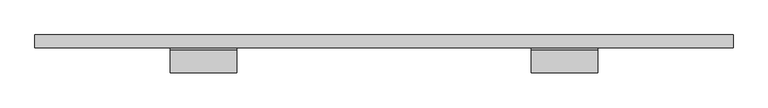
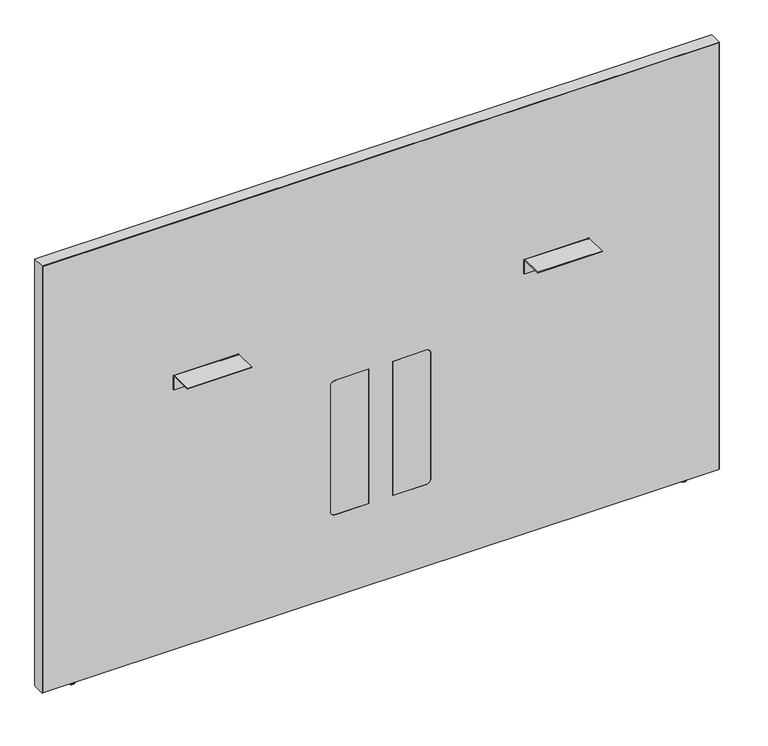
"""IFC4 building model written with IfcOpenShell, lengths in millimetres: furniture geometry, Steelcase - Answer Solution - Boundary Screen - Straight - Spanning : 42H x 63W."""

from ifc_helpers import new_model, si_unit, point, frame, frame_2d, origin, place, context, project, spatial, polyline, circle_curve, ellipse_curve, trimmed, segment, composite_curve, outline, extrude, source, transform, mapped, element, save
from ifc_brep_helpers import plane_surface, cylinder_surface, revolved_surface, advanced_brep


def furniture_72c8d723(model_context):
    return source(origin(), model_context, "Body", "SolidModel", [
        advanced_brep(
        [(-493.0902705, -14.8449166, 9.9059849), (-493.0902705, -5.9309607, 9.9059849), (-493.0902705, -23.7588726, 9.9059849), (-493.0902705, -5.9309607, 2.9673238), (-493.0902705, -23.7588726, 2.9673238), (-493.0902705, -6.8982978, 2.9673238), (-493.0902705, -22.7915354, 2.9673238), (-493.0902705, -6.8982978, 1.6569081), (-493.0902705, -22.7915354, 1.6569081), (-493.0902705, -8.5552059, 0.0), (-493.0902705, -21.1346274, 0.0), (-493.0902705, -14.8449166, 0.0)],
        [
            (0, 1),
            (1, 2, circle_curve(frame((-493.0902705, -14.8449166, 9.9059849), z_axis=(0.0, 0.0, 1.0), x_axis=(0.0, 1.0, 0.0)), 8.913956)),
            (2, 0),
            (2, 1, circle_curve(frame((-493.0902705, -14.8449166, 9.9059849), z_axis=(0.0, 0.0, 1.0), x_axis=(0.0, 1.0, 0.0)), 8.913956)),
            (1, 3),
            (3, 4, circle_curve(frame((-493.0902705, -14.8449166, 2.9673238), z_axis=(0.0, 0.0, 1.0), x_axis=(0.0, 1.0, 0.0)), 8.913956)),
            (4, 2),
            (4, 3, circle_curve(frame((-493.0902705, -14.8449166, 2.9673238), z_axis=(0.0, 0.0, 1.0), x_axis=(0.0, 1.0, 0.0)), 8.913956)),
            (3, 5),
            (5, 6, circle_curve(frame((-493.0902705, -14.8449166, 2.9673238), z_axis=(0.0, 0.0, 1.0), x_axis=(0.0, 1.0, 0.0)), 7.9466188)),
            (6, 4),
            (6, 5, circle_curve(frame((-493.0902705, -14.8449166, 2.9673238), z_axis=(0.0, 0.0, 1.0), x_axis=(0.0, 1.0, 0.0)), 7.9466188)),
            (5, 7),
            (7, 8, circle_curve(frame((-493.0902705, -14.8449166, 1.6569081), z_axis=(0.0, 0.0, 1.0), x_axis=(0.0, 1.0, 0.0)), 7.9466188)),
            (8, 6),
            (8, 7, circle_curve(frame((-493.0902705, -14.8449166, 1.6569081), z_axis=(0.0, 0.0, 1.0), x_axis=(0.0, 1.0, 0.0)), 7.9466188)),
            (7, 9, circle_curve(frame((-493.0902705, -8.5552059, 1.6569081), z_axis=(-1.0, 0.0, 0.0), x_axis=(0.0, 1.0, 0.0)), 1.6569081)),
            (9, 10, circle_curve(frame((-493.0902705, -14.8449166, 0.0), z_axis=(0.0, 0.0, 1.0), x_axis=(0.0, 1.0, 0.0)), 6.2897107)),
            (10, 8, circle_curve(frame((-493.0902705, -21.1346274, 1.6569081), z_axis=(-1.0, 0.0, 0.0), x_axis=(0.0, -1.0, 0.0)), 1.6569081)),
            (10, 9, circle_curve(frame((-493.0902705, -14.8449166, 0.0), z_axis=(0.0, 0.0, 1.0), x_axis=(0.0, 1.0, 0.0)), 6.2897107)),
            (9, 11),
            (11, 10),
        ],
        [
            plane_surface(frame((-493.0902705, -14.8449166, 9.9059849), z_axis=(0.0, 0.0, 1.0), x_axis=(0.0, 1.0, 0.0))),
            cylinder_surface(frame((-493.0902705, -14.8449166, 9.9059849), z_axis=(0.0, 0.0, 1.0), x_axis=(0.0, 1.0, 0.0)), 8.913956),
            plane_surface(frame((-493.0902705, -14.8449166, 2.9673238), z_axis=(0.0, 0.0, -1.0), x_axis=(0.0, 1.0, 0.0))),
            cylinder_surface(frame((-493.0902705, -14.8449166, 9.9059849), z_axis=(0.0, 0.0, 1.0), x_axis=(0.0, 1.0, 0.0)), 7.9466188),
            revolved_surface(trimmed(ellipse_curve(frame((-493.0902705, -8.5552059, 1.6569081), z_axis=(1.0, 0.0, 0.0), x_axis=(0.0, 1.0, 0.0)), 1.6569081, 1.6569081), [point((-493.0902705, -8.5552059, 0.0))], [point((-493.0902705, -6.8982978, 1.6569081))], True, "CARTESIAN"), (-493.0902705, -14.8449166, 9.9059849), (0.0, 0.0, 1.0)),
            plane_surface(frame((-493.0902705, -14.8449166, 0.0), z_axis=(0.0, 0.0, -1.0), x_axis=(0.0, 1.0, 0.0))),
        ],
        [
            (0, [[1, 2, 3]]),
            (0, [[-3, 4, -1]]),
            (1, [[-2, 5, 6, 7]]),
            (1, [[-4, -7, 8, -5]]),
            (2, [[-6, 9, 10, 11]]),
            (2, [[-8, -11, 12, -9]]),
            (3, [[-10, 13, 14, 15]]),
            (3, [[-12, -15, 16, -13]]),
            (4, [[-14, 17, 18, 19]]),
            (4, [[-16, -19, 20, -17]]),
            (5, [[-18, 21, 22]]),
            (5, [[-20, -22, -21]]),
        ],
    ),
        extrude(outline(composite_curve([segment(polyline([(-86.8398151, 696.4680019), (-86.8398151, 698.5), (-34.9450855, 698.5)]), True, "CONTINUOUS"), segment(trimmed(circle_curve(frame_2d((-34.9450855, 693.2447477)), 5.2552523), [point((-34.9450855, 698.5))], [point((-29.6898332, 693.2447477))], False, "CARTESIAN"), True, "CONTINUOUS"), segment(polyline([(-29.6898332, 693.2447477), (-29.6898332, 660.4), (-31.7218162, 660.4), (-31.7218162, 693.0058743)]), True, "CONTINUOUS"), segment(trimmed(circle_curve(frame_2d((-35.1839438, 693.0058743)), 3.4621276), [point((-31.7218162, 693.0058743))], [point((-35.1839438, 696.4680019))], True, "CARTESIAN"), True, "CONTINUOUS"), segment(polyline([(-35.1839438, 696.4680019), (-86.8398151, 696.4680019)]), True, "CONTINUOUS")], self_intersect=False)), frame((567.8282189, 0.0, 0.0), z_axis=(1.0, 0.0, 0.0), x_axis=(0.0, 1.0, 0.0)), (0.0, 0.0, 1.0), 152.4000969),
        extrude(outline(composite_curve([segment(polyline([(-86.8398151, 696.4680019), (-86.8398151, 698.5), (-34.9450855, 698.5)]), True, "CONTINUOUS"), segment(trimmed(circle_curve(frame_2d((-34.9450855, 693.2447477)), 5.2552523), [point((-34.9450855, 698.5))], [point((-29.6898332, 693.2447477))], False, "CARTESIAN"), True, "CONTINUOUS"), segment(polyline([(-29.6898332, 693.2447477), (-29.6898332, 660.4), (-31.7218162, 660.4), (-31.7218162, 693.0058743)]), True, "CONTINUOUS"), segment(trimmed(circle_curve(frame_2d((-35.1839438, 693.0058743)), 3.4621276), [point((-31.7218162, 693.0058743))], [point((-35.1839438, 696.4680019))], True, "CARTESIAN"), True, "CONTINUOUS"), segment(polyline([(-35.1839438, 696.4680019), (-86.8398151, 696.4680019)]), True, "CONTINUOUS")], self_intersect=False)), frame((-260.5884581, 0.0, 0.0), z_axis=(1.0, 0.0, 0.0), x_axis=(0.0, 1.0, 0.0)), (0.0, 0.0, 1.0), 152.4000969),
        advanced_brep(
        [(952.7286488, -23.7588726, 9.9059849), (952.7286488, -5.9309607, 9.9059849), (952.7286488, -14.8449166, 9.9059849), (952.7286488, -23.7588726, 2.9673238), (952.7286488, -5.9309607, 2.9673238), (952.7286488, -22.7915354, 2.9673238), (952.7286488, -6.8982978, 2.9673238), (952.7286488, -22.7915354, 1.6569081), (952.7286488, -6.8982978, 1.6569081), (952.7286488, -21.1346274, 0.0), (952.7286488, -8.5552059, 0.0), (952.7286488, -14.8449166, 0.0)],
        [
            (0, 1, circle_curve(frame((952.7286488, -14.8449166, 9.9059849), z_axis=(0.0, 0.0, 1.0), x_axis=(0.0, 1.0, 0.0)), 8.913956)),
            (1, 2),
            (2, 0),
            (1, 0, circle_curve(frame((952.7286488, -14.8449166, 9.9059849), z_axis=(0.0, 0.0, 1.0), x_axis=(0.0, 1.0, 0.0)), 8.913956)),
            (3, 4, circle_curve(frame((952.7286488, -14.8449166, 2.9673238), z_axis=(0.0, 0.0, 1.0), x_axis=(0.0, 1.0, 0.0)), 8.913956)),
            (4, 1),
            (0, 3),
            (4, 3, circle_curve(frame((952.7286488, -14.8449166, 2.9673238), z_axis=(0.0, 0.0, 1.0), x_axis=(0.0, 1.0, 0.0)), 8.913956)),
            (5, 6, circle_curve(frame((952.7286488, -14.8449166, 2.9673238), z_axis=(0.0, 0.0, 1.0), x_axis=(0.0, 1.0, 0.0)), 7.9466188)),
            (6, 4),
            (3, 5),
            (6, 5, circle_curve(frame((952.7286488, -14.8449166, 2.9673238), z_axis=(0.0, 0.0, 1.0), x_axis=(0.0, 1.0, 0.0)), 7.9466188)),
            (7, 8, circle_curve(frame((952.7286488, -14.8449166, 1.6569081), z_axis=(0.0, 0.0, 1.0), x_axis=(0.0, 1.0, 0.0)), 7.9466188)),
            (8, 6),
            (5, 7),
            (8, 7, circle_curve(frame((952.7286488, -14.8449166, 1.6569081), z_axis=(0.0, 0.0, 1.0), x_axis=(0.0, 1.0, 0.0)), 7.9466188)),
            (9, 10, circle_curve(frame((952.7286488, -14.8449166, 0.0), z_axis=(0.0, 0.0, 1.0), x_axis=(0.0, 1.0, 0.0)), 6.2897107)),
            (10, 8, circle_curve(frame((952.7286488, -8.5552059, 1.6569081), z_axis=(1.0, 0.0, 0.0), x_axis=(0.0, 1.0, 0.0)), 1.6569081)),
            (7, 9, circle_curve(frame((952.7286488, -21.1346274, 1.6569081), z_axis=(1.0, 0.0, 0.0), x_axis=(0.0, -1.0, 0.0)), 1.6569081)),
            (10, 9, circle_curve(frame((952.7286488, -14.8449166, 0.0), z_axis=(0.0, 0.0, 1.0), x_axis=(0.0, 1.0, 0.0)), 6.2897107)),
            (11, 10),
            (9, 11),
        ],
        [
            plane_surface(frame((952.7286488, -14.8449166, 9.9059849), z_axis=(0.0, 0.0, 1.0), x_axis=(0.0, 1.0, 0.0))),
            cylinder_surface(frame((952.7286488, -14.8449166, 9.9059849), z_axis=(0.0, 0.0, -1.0), x_axis=(0.0, 1.0, 0.0)), 8.913956),
            plane_surface(frame((952.7286488, -14.8449166, 2.9673238), z_axis=(0.0, 0.0, -1.0), x_axis=(0.0, 1.0, 0.0))),
            cylinder_surface(frame((952.7286488, -14.8449166, 9.9059849), z_axis=(0.0, 0.0, -1.0), x_axis=(0.0, 1.0, 0.0)), 7.9466188),
            revolved_surface(trimmed(ellipse_curve(frame((952.7286488, -8.5552059, 1.6569081), z_axis=(-1.0, 0.0, 0.0), x_axis=(0.0, 1.0, 0.0)), 1.6569081, 1.6569081), [point((952.7286488, -6.8982978, 1.6569081))], [point((952.7286488, -8.5552059, 0.0))], True, "CARTESIAN"), (952.7286488, -14.8449166, 9.9059849), (0.0, 0.0, -1.0)),
            plane_surface(frame((952.7286488, -14.8449166, 0.0), z_axis=(0.0, 0.0, -1.0), x_axis=(0.0, 1.0, 0.0))),
        ],
        [
            (0, [[1, 2, 3]]),
            (0, [[4, -3, -2]]),
            (1, [[5, 6, -1, 7]]),
            (1, [[8, -7, -4, -6]]),
            (2, [[9, 10, -5, 11]]),
            (2, [[12, -11, -8, -10]]),
            (3, [[13, 14, -9, 15]]),
            (3, [[16, -15, -12, -14]]),
            (4, [[17, 18, -13, 19]]),
            (4, [[20, -19, -16, -18]]),
            (5, [[21, -17, 22]]),
            (5, [[-22, -20, -21]]),
        ],
    ),
        advanced_brep(
        [(1028.8780168, 0.0, 1076.742118), (1028.8780168, 0.0, 9.9059849), (-569.2902221, 0.0, 9.9059849), (-569.2902221, 0.0, 1076.742118), (1028.8780168, -29.6898332, 1076.742118), (-569.2902221, -29.6898332, 1076.742118), (-569.2902221, -29.6898332, 9.9059849), (1028.8780168, -29.6898332, 9.9059849), (337.7883813, -29.6898332, 549.6162029), (347.9483813, -29.6898332, 539.4562029), (347.9483813, -29.6898332, 223.9362137), (337.7883813, -29.6898332, 213.7762137), (258.1344836, -29.6898332, 213.7762137), (258.1344836, -29.6898332, 549.6162029), (121.849997, -29.6898332, 549.6162029), (201.5038947, -29.6898332, 549.6162029), (201.5038947, -29.6898332, 213.7762137), (121.849997, -29.6898332, 213.7762137), (111.689997, -29.6898332, 223.9362137), (111.689997, -29.6898332, 539.4562029), (258.1344836, -29.0550397, 549.6162029), (337.7883813, -29.0550397, 549.6162029), (258.1344836, -29.0550397, 213.7762137), (337.7883813, -29.0550397, 213.7762137), (347.9483813, -29.0550397, 223.9362137), (347.9483813, -29.0550397, 539.4562029), (121.849997, -29.0550397, 549.6162029), (111.689997, -29.0550397, 539.4562029), (111.689997, -29.0550397, 223.9362137), (121.849997, -29.0550397, 213.7762137), (201.5038947, -29.0550397, 213.7762137), (201.5038947, -29.0550397, 549.6162029)],
        [
            (0, 1),
            (1, 2),
            (2, 3),
            (3, 0),
            (4, 5),
            (5, 6),
            (6, 7),
            (7, 4),
            (8, 9, circle_curve(frame((337.7883813, -29.6898332, 539.4562029), z_axis=(0.0, 1.0, 0.0), x_axis=(0.0, 0.0, 1.0)), 10.16)),
            (9, 10),
            (10, 11, circle_curve(frame((337.7883813, -29.6898332, 223.9362137), z_axis=(0.0, 1.0, 0.0), x_axis=(0.0, 0.0, 1.0)), 10.16)),
            (11, 12),
            (12, 13),
            (13, 8),
            (14, 15),
            (15, 16),
            (16, 17),
            (17, 18, circle_curve(frame((121.849997, -29.6898332, 223.9362137), z_axis=(0.0, 1.0, 0.0), x_axis=(0.0, 0.0, 1.0)), 10.16)),
            (18, 19),
            (19, 14, circle_curve(frame((121.849997, -29.6898332, 539.4562029), z_axis=(0.0, 1.0, 0.0), x_axis=(0.0, 0.0, 1.0)), 10.16)),
            (0, 4),
            (7, 1),
            (6, 2),
            (5, 3),
            (13, 20),
            (20, 21),
            (21, 8),
            (12, 22),
            (22, 20),
            (11, 23),
            (23, 22),
            (10, 24),
            (24, 23, circle_curve(frame((337.7883813, -29.0550397, 223.9362137), z_axis=(0.0, 1.0, 0.0), x_axis=(0.0, 0.0, 1.0)), 10.16)),
            (9, 25),
            (25, 24),
            (21, 25, circle_curve(frame((337.7883813, -29.0550397, 539.4562029), z_axis=(0.0, 1.0, 0.0), x_axis=(0.0, 0.0, 1.0)), 10.16)),
            (26, 27, circle_curve(frame((121.849997, -29.0550397, 539.4562029), z_axis=(0.0, -1.0, 0.0), x_axis=(0.0, 0.0, 1.0)), 10.16)),
            (27, 28),
            (28, 29, circle_curve(frame((121.849997, -29.0550397, 223.9362137), z_axis=(0.0, -1.0, 0.0), x_axis=(0.0, 0.0, 1.0)), 10.16)),
            (29, 30),
            (30, 31),
            (31, 26),
            (19, 27),
            (26, 14),
            (18, 28),
            (17, 29),
            (16, 30),
            (15, 31),
        ],
        [
            plane_surface(frame((1028.8780168, 0.0, 1076.742118), z_axis=(0.0, 1.0, 0.0), x_axis=(0.0, 0.0, -1.0))),
            plane_surface(frame((1028.8780168, -29.6898332, 1076.742118), z_axis=(0.0, -1.0, 0.0), x_axis=(0.0, 0.0, 1.0))),
            plane_surface(frame((1028.8780168, 0.0, 1076.742118), z_axis=(1.0, 0.0, 0.0), x_axis=(0.0, -1.0, 0.0))),
            plane_surface(frame((1028.8780168, 0.0, 9.9059849), z_axis=(0.0, 0.0, -1.0), x_axis=(0.0, -1.0, 0.0))),
            plane_surface(frame((-569.2902221, 0.0, 9.9059849), z_axis=(-1.0, 0.0, 0.0), x_axis=(0.0, -1.0, 0.0))),
            plane_surface(frame((-569.2902221, 0.0, 1076.742118), z_axis=(0.0, 0.0, 1.0), x_axis=(0.0, -1.0, 0.0))),
            plane_surface(frame((337.7883813, 0.0, 549.6162029), z_axis=(0.0, 0.0, -1.0), x_axis=(0.0, -1.0, 0.0))),
            plane_surface(frame((258.1344836, 0.0, 549.6162029), z_axis=(1.0, 0.0, 0.0), x_axis=(0.0, -1.0, 0.0))),
            plane_surface(frame((258.1344836, 0.0, 213.7762137), z_axis=(0.0, 0.0, 1.0), x_axis=(0.0, -1.0, 0.0))),
            revolved_surface(polyline([(337.7883813, -29.6898332, 234.0962137), (337.7883813, -29.0550397, 234.0962137)]), (337.7883813, -29.6898332, 223.9362137), (0.0, -1.0, 0.0)),
            plane_surface(frame((347.9483813, 0.0, 223.9362137), z_axis=(-1.0, 0.0, 0.0), x_axis=(0.0, -1.0, 0.0))),
            revolved_surface(polyline([(337.7883813, -29.6898332, 549.6162029), (337.7883813, -29.0550397, 549.6162029)]), (337.7883813, -29.6898332, 539.4562029), (0.0, -1.0, 0.0)),
            plane_surface(frame((347.9483813, -29.0550397, 549.6162029), z_axis=(0.0, -1.0, 0.0), x_axis=(0.0, 0.0, 1.0))),
            revolved_surface(polyline([(121.849997, -29.6898332, 549.6162029), (121.849997, -29.0550397, 549.6162029)]), (121.849997, -29.6898332, 539.4562029), (0.0, -1.0, 0.0)),
            plane_surface(frame((111.689997, 0.0, 539.4562029), z_axis=(1.0, 0.0, 0.0), x_axis=(0.0, -1.0, 0.0))),
            revolved_surface(polyline([(121.849997, -29.6898332, 234.0962137), (121.849997, -29.0550397, 234.0962137)]), (121.849997, -29.6898332, 223.9362137), (0.0, -1.0, 0.0)),
            plane_surface(frame((121.849997, 0.0, 213.7762137), z_axis=(0.0, 0.0, 1.0), x_axis=(0.0, -1.0, 0.0))),
            plane_surface(frame((201.5038947, 0.0, 213.7762137), z_axis=(-1.0, 0.0, 0.0), x_axis=(0.0, -1.0, 0.0))),
            plane_surface(frame((201.5038947, 0.0, 549.6162029), z_axis=(0.0, 0.0, -1.0), x_axis=(0.0, -1.0, 0.0))),
        ],
        [
            (0, [[1, 2, 3, 4]]),
            (1, [[5, 6, 7, 8], [9, 10, 11, 12, 13, 14], [15, 16, 17, 18, 19, 20]]),
            (2, [[-1, 21, -8, 22]]),
            (3, [[-2, -22, -7, 23]]),
            (4, [[-3, -23, -6, 24]]),
            (5, [[-4, -24, -5, -21]]),
            (6, [[-14, 25, 26, 27]]),
            (7, [[-13, 28, 29, -25]]),
            (8, [[-12, 30, 31, -28]]),
            (9, [[-11, 32, 33, -30]]),
            (10, [[-10, 34, 35, -32]]),
            (11, [[-9, -27, 36, -34]]),
            (12, [[-26, -29, -31, -33, -35, -36]]),
            (12, [[37, 38, 39, 40, 41, 42]]),
            (13, [[-20, 43, -37, 44]]),
            (14, [[-19, 45, -38, -43]]),
            (15, [[-18, 46, -39, -45]]),
            (16, [[-17, 47, -40, -46]]),
            (17, [[-16, 48, -41, -47]]),
            (18, [[-15, -44, -42, -48]]),
        ],
    ),
        extrude(outline(composite_curve([segment(polyline([(549.6162029, 337.7883813), (549.6162029, 258.1344836), (213.7762137, 258.1344836), (213.7762137, 337.7883813)]), True, "CONTINUOUS"), segment(trimmed(circle_curve(frame_2d((223.9362137, 337.7883813)), 10.16), [point((213.7762137, 337.7883813))], [point((223.9362137, 347.9483813))], False, "CARTESIAN"), True, "CONTINUOUS"), segment(polyline([(223.9362137, 347.9483813), (539.4562029, 347.9483813)]), True, "CONTINUOUS"), segment(trimmed(circle_curve(frame_2d((539.4562029, 337.7883813)), 10.16), [point((539.4562029, 347.9483813))], [point((549.6162029, 337.7883813))], False, "CARTESIAN"), True, "CONTINUOUS")], self_intersect=False)), frame((0.0, -29.6898332, 0.0), z_axis=(0.0, 1.0, 0.0), x_axis=(0.0, 0.0, 1.0)), (0.0, 0.0, 1.0), 0.6347935),
        extrude(outline(composite_curve([segment(trimmed(circle_curve(frame_2d((539.4562029, 121.849997)), 10.16), [point((549.6162029, 121.849997))], [point((539.4562029, 111.689997))], False, "CARTESIAN"), True, "CONTINUOUS"), segment(polyline([(539.4562029, 111.689997), (223.9362137, 111.689997)]), True, "CONTINUOUS"), segment(trimmed(circle_curve(frame_2d((223.9362137, 121.849997)), 10.16), [point((223.9362137, 111.689997))], [point((213.7762137, 121.849997))], False, "CARTESIAN"), True, "CONTINUOUS"), segment(polyline([(213.7762137, 121.849997), (213.7762137, 201.5038947), (549.6162029, 201.5038947), (549.6162029, 121.849997)]), True, "CONTINUOUS")], self_intersect=False)), frame((0.0, -29.6898332, 0.0), z_axis=(0.0, 1.0, 0.0), x_axis=(0.0, 0.0, 1.0)), (0.0, 0.0, 1.0), 0.6347935),
        extrude(outline(polyline([(1077.722, 1029.9191891), (1077.722, -570.2808109), (9.9059849, -570.2808109), (9.9059849, -569.2902221), (1076.742118, -569.2902221), (1076.742118, 1028.8780168), (9.9059849, 1028.8780168), (9.9059849, 1029.9191891), (1077.722, 1029.9191891)])), frame((0.0, -29.6898332, 0.0), z_axis=(0.0, 1.0, 0.0), x_axis=(0.0, 0.0, 1.0)), (0.0, 0.0, 1.0), 29.6898332),
    ])


if __name__ == "__main__":
    model = new_model("IFC4")
    model_context = context("Model", 3, world=origin())
    ifc_project = project(units=[si_unit("LENGTHUNIT", "METRE", prefix="MILLI")], contexts=[model_context])
    site = spatial("IfcSite", under=ifc_project)
    building = spatial("IfcBuilding", under=site)
    placement = place(None, origin())
    furniture_shape = furniture_72c8d723(model_context)
    element("IfcFurniture", 1, ObjectType="Steelcase - Answer Solution - Boundary Screen - Straight - Spanning : 42H x 63W", at=placement, inside=building, context=model_context, shape_type="MappedRepresentation", body=[
        mapped(furniture_shape, transform((0.0, 0.0, 0.0), x_axis=(1.0, 0.0, 0.0), y_axis=(0.0, 1.0, 0.0), z_axis=(0.0, 0.0, 1.0))),
    ])
    save(model, "model.ifc")
